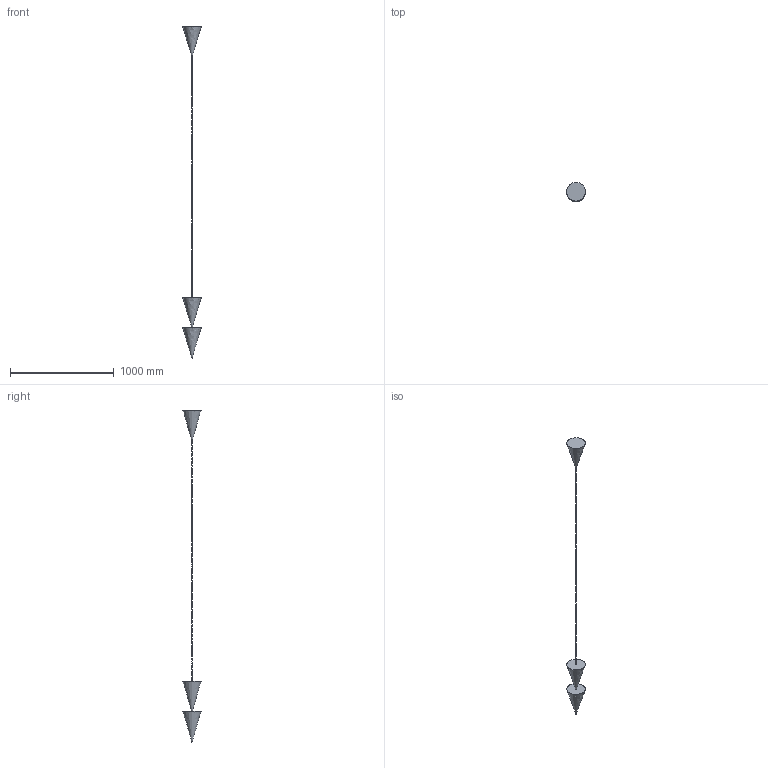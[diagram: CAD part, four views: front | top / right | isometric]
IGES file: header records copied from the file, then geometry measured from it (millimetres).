
Global section: file name: /Users/magnolia/Downloads/PEAKS/PEAKS UP/PEAKS 2 UP/PEAKS-2-up.igs; native system: Rhinoceros ( Aug  9 2023 ); preprocessor: Trout Lake IGES 012 Aug  9 2023; date: 230821.160534; units: millimetre
Bounding box: 180 x 180 x 3200 mm (x, y, z)
Surface area: 374413.5 mm2 (no closed solid volume)
Topology: 0 solids, 0 shells, 9 faces, 53 edges, 44 vertices
Faces by surface type: bspline 9
